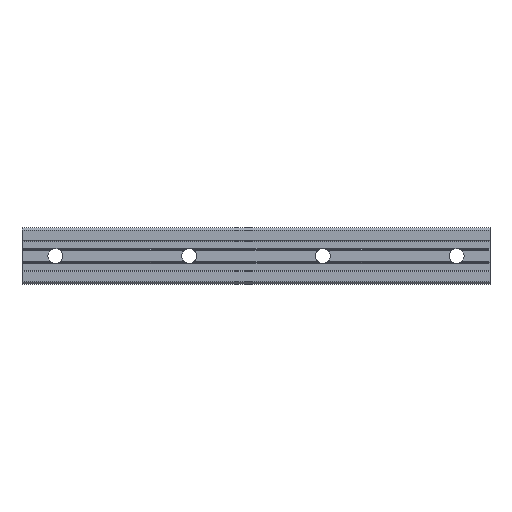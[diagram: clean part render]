
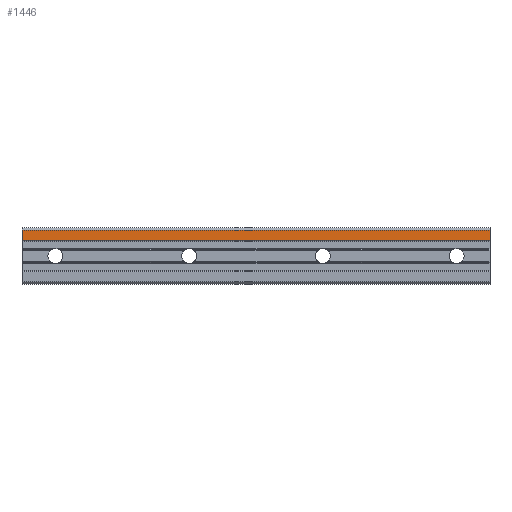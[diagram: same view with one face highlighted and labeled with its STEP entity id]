
A CAD part, front view. The second image highlights one B-rep face of the part: STEP entity #1446.
In plain terms, the highlighted planar face has unit normal (0, -1, 0).
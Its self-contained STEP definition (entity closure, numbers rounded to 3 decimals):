
#56=PLANE('',#1576);
#308=ORIENTED_EDGE('',*,*,#711,.T.);
#309=ORIENTED_EDGE('',*,*,#712,.F.);
#310=ORIENTED_EDGE('',*,*,#713,.F.);
#311=ORIENTED_EDGE('',*,*,#709,.T.);
#709=EDGE_CURVE('',#897,#896,#1018,.T.);
#711=EDGE_CURVE('',#896,#898,#1020,.T.);
#712=EDGE_CURVE('',#899,#898,#1021,.T.);
#713=EDGE_CURVE('',#897,#899,#1022,.T.);
#896=VERTEX_POINT('',#2395);
#897=VERTEX_POINT('',#2397);
#898=VERTEX_POINT('',#2401);
#899=VERTEX_POINT('',#2403);
#1018=LINE('',#2396,#1130);
#1020=LINE('',#2400,#1132);
#1021=LINE('',#2402,#1133);
#1022=LINE('',#2404,#1134);
#1130=VECTOR('',#1877,1000.);
#1132=VECTOR('',#1881,1000.);
#1133=VECTOR('',#1882,1000.);
#1134=VECTOR('',#1883,1000.);
#1220=EDGE_LOOP('',(#308,#309,#310,#311));
#1314=FACE_BOUND('',#1220,.T.);
#1446=ADVANCED_FACE('',(#1314),#56,.F.);
#1576=AXIS2_PLACEMENT_3D('',#2399,#1879,#1880);
#1877=DIRECTION('',(-1.,0.,0.));
#1879=DIRECTION('',(0.,1.,0.));
#1880=DIRECTION('',(0.,0.,1.));
#1881=DIRECTION('',(0.,0.,-1.));
#1882=DIRECTION('',(-1.,0.,0.));
#1883=DIRECTION('',(0.,0.,-1.));
#2395=CARTESIAN_POINT('',(-20.,0.,15.5));
#2396=CARTESIAN_POINT('',(260.,0.,15.5));
#2397=CARTESIAN_POINT('',(260.,0.,15.5));
#2399=CARTESIAN_POINT('',(260.,0.,15.5));
#2400=CARTESIAN_POINT('',(-20.,0.,15.5));
#2401=CARTESIAN_POINT('',(-20.,0.,9.5));
#2402=CARTESIAN_POINT('',(260.,0.,9.5));
#2403=CARTESIAN_POINT('',(260.,0.,9.5));
#2404=CARTESIAN_POINT('',(260.,0.,15.5));
